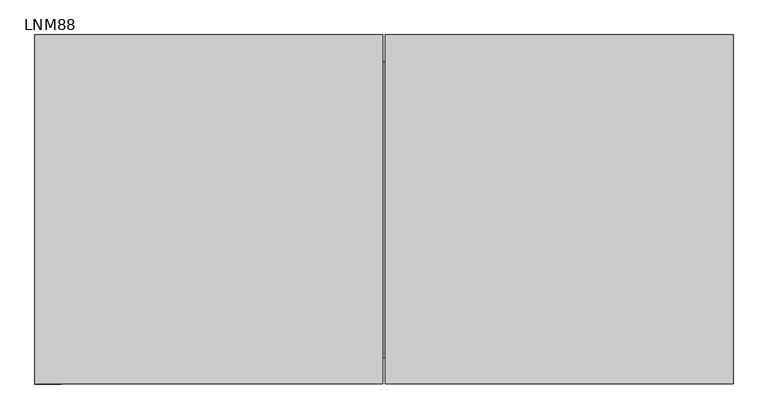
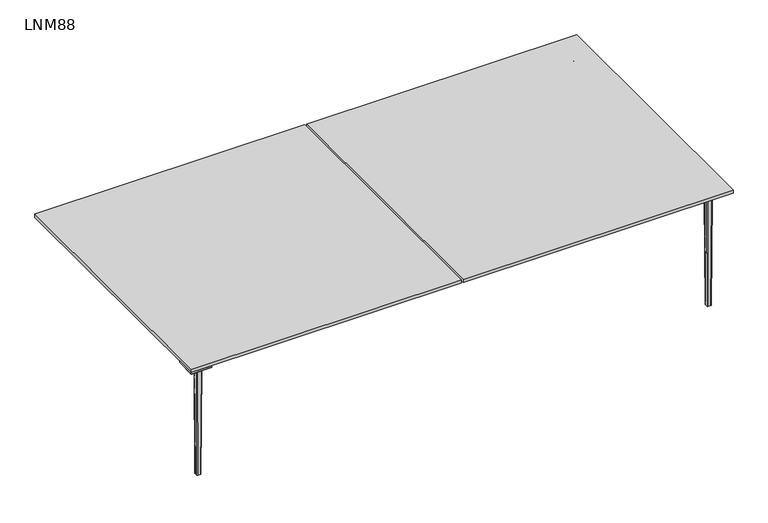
"""IFC4 building model written with IfcOpenShell, lengths in millimetres: furniture geometry, Operative Twin Desks : LNM88."""

from ifc_helpers import new_model, si_unit, point, frame, origin, place, context, project, spatial, polyline, circle_curve, ellipse_curve, trimmed, outline, extrude, faceted_brep, source, transform, mapped, element, save
from ifc_brep_helpers import plane_surface, cylinder_surface, revolved_surface, extruded_surface, advanced_brep


def lnm88_339ca961(model_context):
    return source(origin(), model_context, "Body", "SolidModel", [
        advanced_brep(
        [(1519.0, -722.0, 665.0), (1522.0, -719.0, 665.0), (1522.0, -695.0, 665.0), (1519.0, -692.0, 665.0), (1495.0, -692.0, 665.0), (1492.0, -695.0, 665.0), (1492.0, -719.0, 665.0), (1495.0, -722.0, 665.0), (1516.0, -719.0, 0.0), (1498.0, -719.0, 0.0), (1495.0, -716.0, 0.0), (1495.0, -698.0, 0.0), (1498.0, -695.0, 0.0), (1516.0, -695.0, 0.0), (1519.0, -698.0, 0.0), (1519.0, -716.0, 0.0)],
        [
            (0, 1, circle_curve(frame((1519.0, -719.0, 665.0), z_axis=(0.0, 0.0, 1.0), x_axis=(0.0, 1.0, 0.0)), 3.0)),
            (1, 2),
            (2, 3, circle_curve(frame((1519.0, -695.0, 665.0), z_axis=(0.0, 0.0, 1.0), x_axis=(0.0, 1.0, 0.0)), 3.0)),
            (3, 4),
            (4, 5, circle_curve(frame((1495.0, -695.0, 665.0), z_axis=(0.0, 0.0, 1.0), x_axis=(0.0, 1.0, 0.0)), 3.0)),
            (5, 6),
            (6, 7, circle_curve(frame((1495.0, -719.0, 665.0), z_axis=(0.0, 0.0, 1.0), x_axis=(0.0, 1.0, 0.0)), 3.0)),
            (7, 0),
            (8, 9),
            (9, 10, circle_curve(frame((1498.0, -716.0, 0.0), z_axis=(0.0, 0.0, -1.0), x_axis=(0.0, 1.0, 0.0)), 3.0)),
            (10, 11),
            (11, 12, circle_curve(frame((1498.0, -698.0, 0.0), z_axis=(0.0, 0.0, -1.0), x_axis=(0.0, 1.0, 0.0)), 3.0)),
            (12, 13),
            (13, 14, circle_curve(frame((1516.0, -698.0, 0.0), z_axis=(0.0, 0.0, -1.0), x_axis=(0.0, 1.0, 0.0)), 3.0)),
            (14, 15),
            (15, 8, circle_curve(frame((1516.0, -716.0, 0.0), z_axis=(0.0, 0.0, -1.0), x_axis=(0.0, 1.0, 0.0)), 3.0)),
            (15, 1),
            (0, 8),
            (14, 2),
            (13, 3),
            (12, 4),
            (11, 5),
            (10, 6),
            (9, 7),
        ],
        [
            plane_surface(frame((1507.0, -707.0, 665.0), z_axis=(0.0, 0.0, 1.0), x_axis=(0.0, -1.0, 0.0))),
            plane_surface(frame((1507.0, -707.0, 0.0), z_axis=(0.0, 0.0, -1.0), x_axis=(0.0, -1.0, 0.0))),
            extruded_surface(trimmed(circle_curve(frame((1516.0, -716.0, 0.0), z_axis=(0.0, 0.0, 1.0), x_axis=(0.0, 1.0, 0.0)), 3.0), [point((1516.0, -719.0, 0.0))], [point((1519.0, -716.0, 0.0))], True, "CARTESIAN"), (3.0, -3.0, 665.0), 665.0135336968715),
            plane_surface(frame((1519.0, -707.0, 0.0), z_axis=(0.9999898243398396, 0.0, -0.004511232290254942), x_axis=(0.0, 1.0, 0.0))),
            extruded_surface(trimmed(circle_curve(frame((1516.0, -698.0, 0.0), z_axis=(0.0, 0.0, 1.0), x_axis=(0.0, 1.0, 0.0)), 3.0), [point((1519.0, -698.0, 0.0))], [point((1516.0, -695.0, 0.0))], True, "CARTESIAN"), (3.0, 3.0, 665.0), 665.0135336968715),
            plane_surface(frame((1507.0, -695.0, 0.0), z_axis=(0.0, 0.9999898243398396, -0.004511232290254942), x_axis=(-1.0, 0.0, 0.0))),
            extruded_surface(trimmed(circle_curve(frame((1498.0, -698.0, 0.0), z_axis=(0.0, 0.0, 1.0), x_axis=(0.0, 1.0, 0.0)), 3.0), [point((1498.0, -695.0, 0.0))], [point((1495.0, -698.0, 0.0))], True, "CARTESIAN"), (-3.0, 3.0, 665.0), 665.0135336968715),
            plane_surface(frame((1495.0, -707.0, 0.0), z_axis=(-0.9999898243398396, 0.0, -0.004511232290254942), x_axis=(0.0, -1.0, 0.0))),
            extruded_surface(trimmed(circle_curve(frame((1498.0, -716.0, 0.0), z_axis=(0.0, 0.0, 1.0), x_axis=(0.0, 1.0, 0.0)), 3.0), [point((1495.0, -716.0, 0.0))], [point((1498.0, -719.0, 0.0))], True, "CARTESIAN"), (-3.0, -3.0, 665.0), 665.0135336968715),
            plane_surface(frame((1507.0, -719.0, 0.0), z_axis=(0.0, -0.9999898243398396, -0.004511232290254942), x_axis=(1.0, 0.0, 0.0))),
        ],
        [
            (0, [[1, 2, 3, 4, 5, 6, 7, 8]]),
            (1, [[9, 10, 11, 12, 13, 14, 15, 16]]),
            (2, [[-16, 17, -1, 18]]),
            (3, [[-15, 19, -2, -17]]),
            (4, [[-14, 20, -3, -19]]),
            (5, [[-13, 21, -4, -20]]),
            (6, [[-12, 22, -5, -21]]),
            (7, [[-11, 23, -6, -22]]),
            (8, [[-10, 24, -7, -23]]),
            (9, [[-9, -18, -8, -24]]),
        ],
    ),
        faceted_brep([(1480.0, 680.0, 710.0), (1600.0, 680.0, 710.0), (1600.0, 800.0, 710.0), (1480.0, 800.0, 710.0), (1480.0, 680.0, 675.0), (1480.0, 727.0, 675.0), (1527.0, 727.0, 675.0), (1527.0, 680.0, 675.0)], [[[0, 1, 2, 3]], [[4, 5, 6, 7]], [[1, 0, 4, 7]], [[0, 3, 5, 4]], [[6, 2, 1, 7]], [[2, 6, 5, 3]]]),
        advanced_brep(
        [(1495.0, 687.0, 675.0), (1519.0, 687.0, 675.0), (1527.0, 695.0, 675.0), (1527.0, 719.0, 675.0), (1519.0, 727.0, 675.0), (1495.0, 727.0, 675.0), (1487.0, 719.0, 675.0), (1487.0, 695.0, 675.0), (1492.0, 719.0, 665.0), (1495.0, 722.0, 665.0), (1519.0, 722.0, 665.0), (1522.0, 719.0, 665.0), (1522.0, 695.0, 665.0), (1519.0, 692.0, 665.0), (1495.0, 692.0, 665.0), (1492.0, 695.0, 665.0), (1495.0, 687.0, 672.0), (1519.0, 687.0, 672.0), (1527.0, 695.0, 672.0), (1527.0, 719.0, 672.0), (1519.0, 727.0, 672.0), (1495.0, 727.0, 672.0), (1487.0, 719.0, 672.0), (1487.0, 695.0, 672.0)],
        [
            (0, 1),
            (1, 2, circle_curve(frame((1519.0, 695.0, 675.0), z_axis=(0.0, 0.0, 1.0), x_axis=(-1.0000000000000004, 0.0, 0.0)), 8.0)),
            (2, 3),
            (3, 4, circle_curve(frame((1519.0, 719.0, 675.0), z_axis=(0.0, 0.0, 1.0), x_axis=(-1.0000000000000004, 0.0, 0.0)), 8.0)),
            (4, 5),
            (5, 6, circle_curve(frame((1495.0, 719.0, 675.0), z_axis=(0.0, 0.0, 1.0), x_axis=(-1.0000000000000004, 0.0, 0.0)), 8.0)),
            (6, 7),
            (7, 0, circle_curve(frame((1495.0, 695.0, 675.0), z_axis=(0.0, 0.0, 1.0), x_axis=(-1.0000000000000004, 0.0, 0.0)), 8.0)),
            (8, 9, circle_curve(frame((1495.0, 719.0, 665.0), z_axis=(0.0, 0.0, -1.0), x_axis=(-1.0000000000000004, 0.0, 0.0)), 3.0)),
            (9, 10),
            (10, 11, circle_curve(frame((1519.0, 719.0, 665.0), z_axis=(0.0, 0.0, -1.0), x_axis=(0.0, 1.0000000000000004, 0.0)), 3.0)),
            (11, 12),
            (12, 13, circle_curve(frame((1519.0, 695.0, 665.0), z_axis=(0.0, 0.0, -1.0), x_axis=(1.0000000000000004, 0.0, 0.0)), 3.0)),
            (13, 14),
            (14, 15, circle_curve(frame((1495.0, 695.0, 665.0), z_axis=(0.0, 0.0, -1.0), x_axis=(0.0, -1.0000000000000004, 0.0)), 3.0)),
            (15, 8),
            (0, 16),
            (16, 17),
            (17, 1),
            (17, 18, circle_curve(frame((1519.0, 695.0, 672.0), z_axis=(0.0, 0.0, 1.0), x_axis=(-1.0000000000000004, 0.0, 0.0)), 8.0)),
            (18, 2),
            (18, 19),
            (19, 3),
            (19, 20, circle_curve(frame((1519.0, 719.0, 672.0), z_axis=(0.0, 0.0, 1.0), x_axis=(-1.0000000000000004, 0.0, 0.0)), 8.0)),
            (20, 4),
            (20, 21),
            (21, 5),
            (21, 22, circle_curve(frame((1495.0, 719.0, 672.0), z_axis=(0.0, 0.0, 1.0), x_axis=(-1.0000000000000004, 0.0, 0.0)), 8.0)),
            (22, 6),
            (22, 23),
            (23, 7),
            (23, 16, circle_curve(frame((1495.0, 695.0, 672.0), z_axis=(0.0, 0.0, 1.0), x_axis=(-1.0000000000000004, 0.0, 0.0)), 8.0)),
            (21, 9, circle_curve(frame((1495.0, 730.9600528, 663.8856766), z_axis=(1.0000000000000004, 0.0, 0.0), x_axis=(0.0, 1.0000000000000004, 0.0)), 9.0290787)),
            (8, 22, circle_curve(frame((1483.0399472, 719.0, 663.8856766), z_axis=(0.0, -1.0000000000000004, 0.0), x_axis=(-1.0000000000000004, 0.0, 0.0)), 9.0290787)),
            (20, 10, circle_curve(frame((1519.0, 730.9600528, 663.8856766), z_axis=(1.0, 0.0, 0.0), x_axis=(0.0, 1.0000000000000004, 0.0)), 9.0290787)),
            (19, 11, circle_curve(frame((1530.9600528, 719.0, 663.8856766), z_axis=(0.0, -1.0000000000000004, 0.0), x_axis=(1.0000000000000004, 0.0, 0.0)), 9.0290787)),
            (18, 12, circle_curve(frame((1530.9600528, 695.0, 663.8856766), z_axis=(0.0, -1.0, 0.0), x_axis=(1.0000000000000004, 0.0, 0.0)), 9.0290787)),
            (17, 13, circle_curve(frame((1519.0, 683.0399472, 663.8856766), z_axis=(-1.0000000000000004, 0.0, 0.0), x_axis=(0.0, -1.0000000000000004, 0.0)), 9.0290787)),
            (16, 14, circle_curve(frame((1495.0, 683.0399472, 663.8856766), z_axis=(-1.0, 0.0, 0.0), x_axis=(0.0, -1.0000000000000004, 0.0)), 9.0290787)),
            (23, 15, circle_curve(frame((1483.0399472, 695.0, 663.8856766), z_axis=(0.0, 1.0000000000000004, 0.0), x_axis=(-1.0000000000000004, 0.0, 0.0)), 9.0290787)),
        ],
        [
            plane_surface(frame((2180.663284, 687.0, 675.0), z_axis=(0.0, 0.0, 1.0), x_axis=(1.0, 0.0, 0.0))),
            plane_surface(frame((2180.663284, 687.0, 665.0), z_axis=(0.0, 0.0, -1.0), x_axis=(-1.0, 0.0, 0.0))),
            plane_surface(frame((1495.0, 687.0, 675.0), z_axis=(0.0, -1.0, 0.0), x_axis=(0.0, 0.0, -1.0))),
            cylinder_surface(frame((1519.0, 695.0, 665.0), z_axis=(0.0, 0.0, 1.0), x_axis=(-1.0000000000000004, 0.0, 0.0)), 8.0),
            plane_surface(frame((1527.0, 695.0, 675.0), z_axis=(1.0, 0.0, 0.0), x_axis=(0.0, 0.0, -1.0))),
            cylinder_surface(frame((1519.0, 719.0, 665.0), z_axis=(0.0, 0.0, 1.0), x_axis=(-1.0000000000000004, 0.0, 0.0)), 8.0),
            plane_surface(frame((1519.0, 727.0, 675.0), z_axis=(0.0, 1.0, 0.0), x_axis=(0.0, 0.0, -1.0))),
            cylinder_surface(frame((1495.0, 719.0, 665.0), z_axis=(0.0, 0.0, 1.0), x_axis=(-1.0000000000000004, 0.0, 0.0)), 8.0),
            plane_surface(frame((1487.0, 719.0, 675.0), z_axis=(-1.0, 0.0, 0.0), x_axis=(0.0, 0.0, -1.0))),
            cylinder_surface(frame((1495.0, 695.0, 665.0), z_axis=(0.0, 0.0, 1.0), x_axis=(-1.0000000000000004, 0.0, 0.0)), 8.0),
            revolved_surface(trimmed(ellipse_curve(frame((1483.0399472, 719.0, 663.8856766), z_axis=(0.0, 1.0000000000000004, 0.0), x_axis=(-1.0000000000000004, 0.0, 0.0)), 9.0290787, 9.0290787), [point((1487.0, 719.0, 672.0))], [point((1492.0, 719.0, 665.0))], True, "CARTESIAN"), (1495.0, 719.0, 0.0), (0.0, 0.0, -1.0)),
            revolved_surface(polyline([(1495.0, 739.9891315, 663.8856766), (1519.0, 739.9891315, 663.8856766)]), (1495.0, 730.9600528, 663.8856766), (-1.0000000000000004, 0.0, 0.0)),
            revolved_surface(trimmed(ellipse_curve(frame((1519.0, 730.9600528, 663.8856766), z_axis=(1.0000000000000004, 0.0, 0.0), x_axis=(0.0, 1.0000000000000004, 0.0)), 9.0290787, 9.0290787), [point((1519.0, 727.0, 672.0))], [point((1519.0, 722.0, 665.0))], True, "CARTESIAN"), (1519.0, 719.0, 0.0), (0.0, 0.0, -1.0)),
            revolved_surface(polyline([(1539.9891315, 719.0, 663.8856766), (1539.9891315, 695.0, 663.8856766)]), (1530.9600528, 719.0, 663.8856766), (0.0, 1.0000000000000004, 0.0)),
            revolved_surface(trimmed(ellipse_curve(frame((1530.9600528, 695.0, 663.8856766), z_axis=(0.0, -1.0000000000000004, 0.0), x_axis=(1.0000000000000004, 0.0, 0.0)), 9.0290787, 9.0290787), [point((1527.0, 695.0, 672.0))], [point((1522.0, 695.0, 665.0))], True, "CARTESIAN"), (1519.0, 695.0, 0.0), (0.0, 0.0, -1.0)),
            revolved_surface(polyline([(1519.0, 674.0108685, 663.8856766), (1495.0, 674.0108685, 663.8856766)]), (1519.0, 683.0399472, 663.8856766), (1.0000000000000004, 0.0, 0.0)),
            revolved_surface(trimmed(ellipse_curve(frame((1495.0, 683.0399472, 663.8856766), z_axis=(-1.0000000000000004, 0.0, 0.0), x_axis=(0.0, -1.0000000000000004, 0.0)), 9.0290787, 9.0290787), [point((1495.0, 687.0, 672.0))], [point((1495.0, 692.0, 665.0))], True, "CARTESIAN"), (1495.0, 695.0, 0.0), (0.0, 0.0, -1.0)),
            revolved_surface(polyline([(1474.0108685, 695.0, 663.8856766), (1474.0108685, 719.0, 663.8856766)]), (1483.0399472, 695.0, 663.8856766), (0.0, -1.0000000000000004, 0.0)),
        ],
        [
            (0, [[1, 2, 3, 4, 5, 6, 7, 8]]),
            (1, [[9, 10, 11, 12, 13, 14, 15, 16]]),
            (2, [[-1, 17, 18, 19]]),
            (3, [[-2, -19, 20, 21]]),
            (4, [[-3, -21, 22, 23]]),
            (5, [[-4, -23, 24, 25]]),
            (6, [[-5, -25, 26, 27]]),
            (7, [[-6, -27, 28, 29]]),
            (8, [[-7, -29, 30, 31]]),
            (9, [[-8, -31, 32, -17]]),
            (10, [[33, -9, 34, -28]]),
            (11, [[-33, -26, 35, -10]]),
            (12, [[-35, -24, 36, -11]]),
            (13, [[-36, -22, 37, -12]]),
            (14, [[-37, -20, 38, -13]]),
            (15, [[-38, -18, 39, -14]]),
            (16, [[-39, -32, 40, -15]]),
            (17, [[-34, -16, -40, -30]]),
        ],
    ),
        advanced_brep(
        [(1522.0, 719.0, 665.0), (1519.0, 722.0, 665.0), (1495.0, 722.0, 665.0), (1492.0, 719.0, 665.0), (1492.0, 695.0, 665.0), (1495.0, 692.0, 665.0), (1519.0, 692.0, 665.0), (1522.0, 695.0, 665.0), (1519.0, 716.0, 0.0), (1519.0, 698.0, 0.0), (1516.0, 695.0, 0.0), (1498.0, 695.0, 0.0), (1495.0, 698.0, 0.0), (1495.0, 716.0, 0.0), (1498.0, 719.0, 0.0), (1516.0, 719.0, 0.0)],
        [
            (0, 1, circle_curve(frame((1519.0, 719.0, 665.0), z_axis=(0.0, 0.0, 1.0), x_axis=(-1.0, 0.0, 0.0)), 3.0)),
            (1, 2),
            (2, 3, circle_curve(frame((1495.0, 719.0, 665.0), z_axis=(0.0, 0.0, 1.0), x_axis=(-1.0, 0.0, 0.0)), 3.0)),
            (3, 4),
            (4, 5, circle_curve(frame((1495.0, 695.0, 665.0), z_axis=(0.0, 0.0, 1.0), x_axis=(-1.0, 0.0, 0.0)), 3.0)),
            (5, 6),
            (6, 7, circle_curve(frame((1519.0, 695.0, 665.0), z_axis=(0.0, 0.0, 1.0), x_axis=(-1.0, 0.0, 0.0)), 3.0)),
            (7, 0),
            (8, 9),
            (9, 10, circle_curve(frame((1516.0, 698.0, 0.0), z_axis=(0.0, 0.0, -1.0), x_axis=(-1.0, 0.0, 0.0)), 3.0)),
            (10, 11),
            (11, 12, circle_curve(frame((1498.0, 698.0, 0.0), z_axis=(0.0, 0.0, -1.0), x_axis=(-1.0, 0.0, 0.0)), 3.0)),
            (12, 13),
            (13, 14, circle_curve(frame((1498.0, 716.0, 0.0), z_axis=(0.0, 0.0, -1.0), x_axis=(-1.0, 0.0, 0.0)), 3.0)),
            (14, 15),
            (15, 8, circle_curve(frame((1516.0, 716.0, 0.0), z_axis=(0.0, 0.0, -1.0), x_axis=(-1.0, 0.0, 0.0)), 3.0)),
            (15, 1),
            (0, 8),
            (14, 2),
            (13, 3),
            (12, 4),
            (11, 5),
            (10, 6),
            (9, 7),
        ],
        [
            plane_surface(frame((1507.0, 707.0, 665.0), z_axis=(0.0, 0.0, 1.0), x_axis=(1.0, 0.0, 0.0))),
            plane_surface(frame((1507.0, 707.0, 0.0), z_axis=(0.0, 0.0, -1.0), x_axis=(1.0, 0.0, 0.0))),
            extruded_surface(trimmed(circle_curve(frame((1516.0, 716.0, 0.0), z_axis=(0.0, 0.0, 1.0), x_axis=(-1.0, 0.0, 0.0)), 3.0), [point((1519.0, 716.0, 0.0))], [point((1516.0, 719.0, 0.0))], True, "CARTESIAN"), (3.0, 3.0, 665.0), 665.0135336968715),
            plane_surface(frame((1507.0, 719.0, 0.0), z_axis=(0.0, 0.9999898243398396, -0.004511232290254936), x_axis=(-1.0, 0.0, 0.0))),
            extruded_surface(trimmed(circle_curve(frame((1498.0, 716.0, 0.0), z_axis=(0.0, 0.0, 1.0), x_axis=(-1.0, 0.0, 0.0)), 3.0), [point((1498.0, 719.0, 0.0))], [point((1495.0, 716.0, 0.0))], True, "CARTESIAN"), (-3.0, 3.0, 665.0), 665.0135336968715),
            plane_surface(frame((1495.0, 707.0, 0.0), z_axis=(-0.9999898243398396, 0.0, -0.004511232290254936), x_axis=(0.0, -1.0, 0.0))),
            extruded_surface(trimmed(circle_curve(frame((1498.0, 698.0, 0.0), z_axis=(0.0, 0.0, 1.0), x_axis=(-1.0, 0.0, 0.0)), 3.0), [point((1495.0, 698.0, 0.0))], [point((1498.0, 695.0, 0.0))], True, "CARTESIAN"), (-3.0, -3.0, 665.0), 665.0135336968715),
            plane_surface(frame((1507.0, 695.0, 0.0), z_axis=(0.0, -0.9999898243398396, -0.004511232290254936), x_axis=(1.0, 0.0, 0.0))),
            extruded_surface(trimmed(circle_curve(frame((1516.0, 698.0, 0.0), z_axis=(0.0, 0.0, 1.0), x_axis=(-1.0, 0.0, 0.0)), 3.0), [point((1516.0, 695.0, 0.0))], [point((1519.0, 698.0, 0.0))], True, "CARTESIAN"), (3.0, -3.0, 665.0), 665.0135336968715),
            plane_surface(frame((1519.0, 707.0, 0.0), z_axis=(0.9999898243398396, 0.0, -0.004511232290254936), x_axis=(0.0, 1.0, 0.0))),
        ],
        [
            (0, [[1, 2, 3, 4, 5, 6, 7, 8]]),
            (1, [[9, 10, 11, 12, 13, 14, 15, 16]]),
            (2, [[-16, 17, -1, 18]]),
            (3, [[-15, 19, -2, -17]]),
            (4, [[-14, 20, -3, -19]]),
            (5, [[-13, 21, -4, -20]]),
            (6, [[-12, 22, -5, -21]]),
            (7, [[-11, 23, -6, -22]]),
            (8, [[-10, 24, -7, -23]]),
            (9, [[-9, -18, -8, -24]]),
        ],
    ),
        faceted_brep([(-1480.0, -680.0, 710.0), (-1600.0, -680.0, 710.0), (-1600.0, -800.0, 710.0), (-1480.0, -800.0, 710.0), (-1480.0, -680.0, 675.0), (-1480.0, -727.0, 675.0), (-1527.0, -727.0, 675.0), (-1527.0, -680.0, 675.0)], [[[0, 1, 2, 3]], [[4, 5, 6, 7]], [[1, 0, 4, 7]], [[0, 3, 5, 4]], [[6, 2, 1, 7]], [[2, 6, 5, 3]]]),
        advanced_brep(
        [(-1495.0, -687.0, 675.0), (-1519.0, -687.0, 675.0), (-1527.0, -695.0, 675.0), (-1527.0, -719.0, 675.0), (-1519.0, -727.0, 675.0), (-1495.0, -727.0, 675.0), (-1487.0, -719.0, 675.0), (-1487.0, -695.0, 675.0), (-1492.0, -719.0, 665.0), (-1495.0, -722.0, 665.0), (-1519.0, -722.0, 665.0), (-1522.0, -719.0, 665.0), (-1522.0, -695.0, 665.0), (-1519.0, -692.0, 665.0), (-1495.0, -692.0, 665.0), (-1492.0, -695.0, 665.0), (-1495.0, -687.0, 672.0), (-1519.0, -687.0, 672.0), (-1527.0, -695.0, 672.0), (-1527.0, -719.0, 672.0), (-1519.0, -727.0, 672.0), (-1495.0, -727.0, 672.0), (-1487.0, -719.0, 672.0), (-1487.0, -695.0, 672.0)],
        [
            (0, 1),
            (1, 2, circle_curve(frame((-1519.0, -695.0, 675.0), z_axis=(0.0, 0.0, 1.0), x_axis=(1.0, 0.0, 0.0)), 8.0)),
            (2, 3),
            (3, 4, circle_curve(frame((-1519.0, -719.0, 675.0), z_axis=(0.0, 0.0, 1.0), x_axis=(1.0, 0.0, 0.0)), 8.0)),
            (4, 5),
            (5, 6, circle_curve(frame((-1495.0, -719.0, 675.0), z_axis=(0.0, 0.0, 1.0), x_axis=(1.0, 0.0, 0.0)), 8.0)),
            (6, 7),
            (7, 0, circle_curve(frame((-1495.0, -695.0, 675.0), z_axis=(0.0, 0.0, 1.0), x_axis=(1.0, 0.0, 0.0)), 8.0)),
            (8, 9, circle_curve(frame((-1495.0, -719.0, 665.0), z_axis=(0.0, 0.0, -1.0), x_axis=(1.0, 0.0, 0.0)), 3.0)),
            (9, 10),
            (10, 11, circle_curve(frame((-1519.0, -719.0, 665.0), z_axis=(0.0, 0.0, -1.0), x_axis=(0.0, -1.0, 0.0)), 3.0)),
            (11, 12),
            (12, 13, circle_curve(frame((-1519.0, -695.0, 665.0), z_axis=(0.0, 0.0, -1.0), x_axis=(-1.0, 0.0, 0.0)), 3.0)),
            (13, 14),
            (14, 15, circle_curve(frame((-1495.0, -695.0, 665.0), z_axis=(0.0, 0.0, -1.0), x_axis=(0.0, 1.0, 0.0)), 3.0)),
            (15, 8),
            (0, 16),
            (16, 17),
            (17, 1),
            (17, 18, circle_curve(frame((-1519.0, -695.0, 672.0), z_axis=(0.0, 0.0, 1.0), x_axis=(1.0, 0.0, 0.0)), 8.0)),
            (18, 2),
            (18, 19),
            (19, 3),
            (19, 20, circle_curve(frame((-1519.0, -719.0, 672.0), z_axis=(0.0, 0.0, 1.0), x_axis=(1.0, 0.0, 0.0)), 8.0)),
            (20, 4),
            (20, 21),
            (21, 5),
            (21, 22, circle_curve(frame((-1495.0, -719.0, 672.0), z_axis=(0.0, 0.0, 1.0), x_axis=(1.0, 0.0, 0.0)), 8.0)),
            (22, 6),
            (22, 23),
            (23, 7),
            (23, 16, circle_curve(frame((-1495.0, -695.0, 672.0), z_axis=(0.0, 0.0, 1.0), x_axis=(1.0, 0.0, 0.0)), 8.0)),
            (21, 9, circle_curve(frame((-1495.0, -730.9600528, 663.8856766), z_axis=(-1.0, 0.0, 0.0), x_axis=(0.0, -1.0, 0.0)), 9.0290787)),
            (8, 22, circle_curve(frame((-1483.0399472, -719.0, 663.8856766), z_axis=(0.0, 1.0, 0.0), x_axis=(1.0, 0.0, 0.0)), 9.0290787)),
            (20, 10, circle_curve(frame((-1519.0, -730.9600528, 663.8856766), z_axis=(-1.0, 0.0, 0.0), x_axis=(0.0, -1.0, 0.0)), 9.0290787)),
            (19, 11, circle_curve(frame((-1530.9600528, -719.0, 663.8856766), z_axis=(0.0, 1.0, 0.0), x_axis=(-1.0, 0.0, 0.0)), 9.0290787)),
            (18, 12, circle_curve(frame((-1530.9600528, -695.0, 663.8856766), z_axis=(0.0, 1.0, 0.0), x_axis=(-1.0, 0.0, 0.0)), 9.0290787)),
            (17, 13, circle_curve(frame((-1519.0, -683.0399472, 663.8856766), z_axis=(1.0, 0.0, 0.0), x_axis=(0.0, 1.0, 0.0)), 9.0290787)),
            (16, 14, circle_curve(frame((-1495.0, -683.0399472, 663.8856766), z_axis=(1.0, 0.0, 0.0), x_axis=(0.0, 1.0, 0.0)), 9.0290787)),
            (23, 15, circle_curve(frame((-1483.0399472, -695.0, 663.8856766), z_axis=(0.0, -1.0, 0.0), x_axis=(1.0, 0.0, 0.0)), 9.0290787)),
        ],
        [
            plane_surface(frame((-2180.663284, -687.0, 675.0), z_axis=(0.0, 0.0, 1.0), x_axis=(-1.0, 0.0, 0.0))),
            plane_surface(frame((-2180.663284, -687.0, 665.0), z_axis=(0.0, 0.0, -1.0), x_axis=(1.0, 0.0, 0.0))),
            plane_surface(frame((-1495.0, -687.0, 675.0), z_axis=(0.0, 1.0, 0.0), x_axis=(0.0, 0.0, -1.0))),
            cylinder_surface(frame((-1519.0, -695.0, 665.0), z_axis=(0.0, 0.0, 1.0), x_axis=(1.0, 0.0, 0.0)), 8.0),
            plane_surface(frame((-1527.0, -695.0, 675.0), z_axis=(-1.0, 0.0, 0.0), x_axis=(0.0, 0.0, -1.0))),
            cylinder_surface(frame((-1519.0, -719.0, 665.0), z_axis=(0.0, 0.0, 1.0), x_axis=(1.0, 0.0, 0.0)), 8.0),
            plane_surface(frame((-1519.0, -727.0, 675.0), z_axis=(0.0, -1.0, 0.0), x_axis=(0.0, 0.0, -1.0))),
            cylinder_surface(frame((-1495.0, -719.0, 665.0), z_axis=(0.0, 0.0, 1.0), x_axis=(1.0, 0.0, 0.0)), 8.0),
            plane_surface(frame((-1487.0, -719.0, 675.0), z_axis=(1.0, 0.0, 0.0), x_axis=(0.0, 0.0, -1.0))),
            cylinder_surface(frame((-1495.0, -695.0, 665.0), z_axis=(0.0, 0.0, 1.0), x_axis=(1.0, 0.0, 0.0)), 8.0),
            revolved_surface(trimmed(ellipse_curve(frame((-1483.0399472, -719.0, 663.8856766), z_axis=(0.0, -1.0, 0.0), x_axis=(1.0, 0.0, 0.0)), 9.0290787, 9.0290787), [point((-1487.0, -719.0, 672.0))], [point((-1492.0, -719.0, 665.0))], True, "CARTESIAN"), (-1495.0, -719.0, 0.0), (0.0, 0.0, -1.0)),
            revolved_surface(polyline([(-1495.0, -739.9891315, 663.8856766), (-1519.0, -739.9891315, 663.8856766)]), (-1495.0, -730.9600528, 663.8856766), (1.0, 0.0, 0.0)),
            revolved_surface(trimmed(ellipse_curve(frame((-1519.0, -730.9600528, 663.8856766), z_axis=(-1.0, 0.0, 0.0), x_axis=(0.0, -1.0, 0.0)), 9.0290787, 9.0290787), [point((-1519.0, -727.0, 672.0))], [point((-1519.0, -722.0, 665.0))], True, "CARTESIAN"), (-1519.0, -719.0, 0.0), (0.0, 0.0, -1.0)),
            revolved_surface(polyline([(-1539.9891315, -719.0, 663.8856766), (-1539.9891315, -695.0, 663.8856766)]), (-1530.9600528, -719.0, 663.8856766), (0.0, -1.0, 0.0)),
            revolved_surface(trimmed(ellipse_curve(frame((-1530.9600528, -695.0, 663.8856766), z_axis=(0.0, 1.0, 0.0), x_axis=(-1.0, 0.0, 0.0)), 9.0290787, 9.0290787), [point((-1527.0, -695.0, 672.0))], [point((-1522.0, -695.0, 665.0))], True, "CARTESIAN"), (-1519.0, -695.0, 0.0), (0.0, 0.0, -1.0)),
            revolved_surface(polyline([(-1519.0, -674.0108685, 663.8856766), (-1495.0, -674.0108685, 663.8856766)]), (-1519.0, -683.0399472, 663.8856766), (-1.0, 0.0, 0.0)),
            revolved_surface(trimmed(ellipse_curve(frame((-1495.0, -683.0399472, 663.8856766), z_axis=(1.0, 0.0, 0.0), x_axis=(0.0, 1.0, 0.0)), 9.0290787, 9.0290787), [point((-1495.0, -687.0, 672.0))], [point((-1495.0, -692.0, 665.0))], True, "CARTESIAN"), (-1495.0, -695.0, 0.0), (0.0, 0.0, -1.0)),
            revolved_surface(polyline([(-1474.0108685, -695.0, 663.8856766), (-1474.0108685, -719.0, 663.8856766)]), (-1483.0399472, -695.0, 663.8856766), (0.0, 1.0, 0.0)),
        ],
        [
            (0, [[1, 2, 3, 4, 5, 6, 7, 8]]),
            (1, [[9, 10, 11, 12, 13, 14, 15, 16]]),
            (2, [[-1, 17, 18, 19]]),
            (3, [[-2, -19, 20, 21]]),
            (4, [[-3, -21, 22, 23]]),
            (5, [[-4, -23, 24, 25]]),
            (6, [[-5, -25, 26, 27]]),
            (7, [[-6, -27, 28, 29]]),
            (8, [[-7, -29, 30, 31]]),
            (9, [[-8, -31, 32, -17]]),
            (10, [[33, -9, 34, -28]]),
            (11, [[-33, -26, 35, -10]]),
            (12, [[-35, -24, 36, -11]]),
            (13, [[-36, -22, 37, -12]]),
            (14, [[-37, -20, 38, -13]]),
            (15, [[-38, -18, 39, -14]]),
            (16, [[-39, -32, 40, -15]]),
            (17, [[-34, -16, -40, -30]]),
        ],
    ),
        advanced_brep(
        [(-1522.0, -719.0, 665.0), (-1519.0, -722.0, 665.0), (-1495.0, -722.0, 665.0), (-1492.0, -719.0, 665.0), (-1492.0, -695.0, 665.0), (-1495.0, -692.0, 665.0), (-1519.0, -692.0, 665.0), (-1522.0, -695.0, 665.0), (-1519.0, -716.0, 0.0), (-1519.0, -698.0, 0.0), (-1516.0, -695.0, 0.0), (-1498.0, -695.0, 0.0), (-1495.0, -698.0, 0.0), (-1495.0, -716.0, 0.0), (-1498.0, -719.0, 0.0), (-1516.0, -719.0, 0.0)],
        [
            (0, 1, circle_curve(frame((-1519.0, -719.0, 665.0), z_axis=(0.0, 0.0, 1.0), x_axis=(1.0, 0.0, 0.0)), 3.0)),
            (1, 2),
            (2, 3, circle_curve(frame((-1495.0, -719.0, 665.0), z_axis=(0.0, 0.0, 1.0), x_axis=(1.0, 0.0, 0.0)), 3.0)),
            (3, 4),
            (4, 5, circle_curve(frame((-1495.0, -695.0, 665.0), z_axis=(0.0, 0.0, 1.0), x_axis=(1.0, 0.0, 0.0)), 3.0)),
            (5, 6),
            (6, 7, circle_curve(frame((-1519.0, -695.0, 665.0), z_axis=(0.0, 0.0, 1.0), x_axis=(1.0, 0.0, 0.0)), 3.0)),
            (7, 0),
            (8, 9),
            (9, 10, circle_curve(frame((-1516.0, -698.0, 0.0), z_axis=(0.0, 0.0, -1.0), x_axis=(1.0, 0.0, 0.0)), 3.0)),
            (10, 11),
            (11, 12, circle_curve(frame((-1498.0, -698.0, 0.0), z_axis=(0.0, 0.0, -1.0), x_axis=(1.0, 0.0, 0.0)), 3.0)),
            (12, 13),
            (13, 14, circle_curve(frame((-1498.0, -716.0, 0.0), z_axis=(0.0, 0.0, -1.0), x_axis=(1.0, 0.0, 0.0)), 3.0)),
            (14, 15),
            (15, 8, circle_curve(frame((-1516.0, -716.0, 0.0), z_axis=(0.0, 0.0, -1.0), x_axis=(1.0, 0.0, 0.0)), 3.0)),
            (15, 1),
            (0, 8),
            (14, 2),
            (13, 3),
            (12, 4),
            (11, 5),
            (10, 6),
            (9, 7),
        ],
        [
            plane_surface(frame((-1507.0, -707.0, 665.0), z_axis=(0.0, 0.0, 1.0), x_axis=(-1.0, 0.0, 0.0))),
            plane_surface(frame((-1507.0, -707.0, 0.0), z_axis=(0.0, 0.0, -1.0), x_axis=(-1.0, 0.0, 0.0))),
            extruded_surface(trimmed(circle_curve(frame((-1516.0, -716.0, 0.0), z_axis=(0.0, 0.0, 1.0), x_axis=(1.0, 0.0, 0.0)), 3.0), [point((-1519.0, -716.0, 0.0))], [point((-1516.0, -719.0, 0.0))], True, "CARTESIAN"), (-3.0, -3.0, 665.0), 665.0135336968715),
            plane_surface(frame((-1507.0, -719.0, 0.0), z_axis=(0.0, -0.9999898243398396, -0.004511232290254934), x_axis=(1.0, 0.0, 0.0))),
            extruded_surface(trimmed(circle_curve(frame((-1498.0, -716.0, 0.0), z_axis=(0.0, 0.0, 1.0), x_axis=(1.0, 0.0, 0.0)), 3.0), [point((-1498.0, -719.0, 0.0))], [point((-1495.0, -716.0, 0.0))], True, "CARTESIAN"), (3.0, -3.0, 665.0), 665.0135336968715),
            plane_surface(frame((-1495.0, -707.0, 0.0), z_axis=(0.9999898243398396, 0.0, -0.004511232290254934), x_axis=(0.0, 1.0, 0.0))),
            extruded_surface(trimmed(circle_curve(frame((-1498.0, -698.0, 0.0), z_axis=(0.0, 0.0, 1.0), x_axis=(1.0, 0.0, 0.0)), 3.0), [point((-1495.0, -698.0, 0.0))], [point((-1498.0, -695.0, 0.0))], True, "CARTESIAN"), (3.0, 3.0, 665.0), 665.0135336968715),
            plane_surface(frame((-1507.0, -695.0, 0.0), z_axis=(0.0, 0.9999898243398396, -0.004511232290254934), x_axis=(-1.0, 0.0, 0.0))),
            extruded_surface(trimmed(circle_curve(frame((-1516.0, -698.0, 0.0), z_axis=(0.0, 0.0, 1.0), x_axis=(1.0, 0.0, 0.0)), 3.0), [point((-1516.0, -695.0, 0.0))], [point((-1519.0, -698.0, 0.0))], True, "CARTESIAN"), (-3.0, 3.0, 665.0), 665.0135336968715),
            plane_surface(frame((-1519.0, -707.0, 0.0), z_axis=(-0.9999898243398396, 0.0, -0.004511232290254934), x_axis=(0.0, -1.0, 0.0))),
        ],
        [
            (0, [[1, 2, 3, 4, 5, 6, 7, 8]]),
            (1, [[9, 10, 11, 12, 13, 14, 15, 16]]),
            (2, [[-16, 17, -1, 18]]),
            (3, [[-15, 19, -2, -17]]),
            (4, [[-14, 20, -3, -19]]),
            (5, [[-13, 21, -4, -20]]),
            (6, [[-12, 22, -5, -21]]),
            (7, [[-11, 23, -6, -22]]),
            (8, [[-10, 24, -7, -23]]),
            (9, [[-9, -18, -8, -24]]),
        ],
    ),
        extrude(outline(polyline([(-1480.0, -680.0), (-1480.0, -800.0), (-1600.0, -800.0), (-1600.0, -680.0), (-1480.0, -680.0)])), frame((0.0, 0.0, 710.0), z_axis=(0.0, 0.0, 1.0), x_axis=(1.0, 0.0, 0.0)), (0.0, 0.0, 1.0), 10.0),
        extrude(outline(polyline([(20.0, 677.0), (20.0, -680.0), (-20.0, -680.0), (-20.0, 677.0), (20.0, 677.0)])), frame((0.0, 0.0, 675.0), z_axis=(0.0, 0.0, 1.0), x_axis=(1.0, 0.0, 0.0)), (0.0, 0.0, 1.0), 35.0),
        extrude(outline(polyline([(-5.0, 800.0), (-5.0, -800.0), (-1600.0, -800.0), (-1600.0, 800.0), (-5.0, 800.0)])), frame((0.0, 0.0, 720.0), z_axis=(0.0, 0.0, 1.0), x_axis=(1.0, 0.0, 0.0)), (0.0, 0.0, 1.0), 20.0),
        extrude(outline(polyline([(5.0, 800.0), (1600.0, 800.0), (1600.0, -800.0), (5.0, -800.0), (5.0, 800.0)])), frame((0.0, 0.0, 720.0), z_axis=(0.0, 0.0, 1.0), x_axis=(1.0, 0.0, 0.0)), (0.0, 0.0, 1.0), 20.0),
    ])


if __name__ == "__main__":
    model = new_model("IFC4")
    model_context = context("Model", 3, world=origin())
    ifc_project = project(units=[si_unit("LENGTHUNIT", "METRE", prefix="MILLI")], contexts=[model_context])
    site = spatial("IfcSite", under=ifc_project)
    building = spatial("IfcBuilding", under=site)
    placement = place(None, origin())
    lnm88_shape = lnm88_339ca961(model_context)
    element("IfcFurniture", 1, ObjectType="Operative Twin Desks : LNM88", at=placement, inside=building, context=model_context, shape_type="MappedRepresentation", body=[
        mapped(lnm88_shape, transform((0.0, 0.0, 0.0), x_axis=(1.0, 0.0, 0.0), y_axis=(0.0, 1.0, 0.0), z_axis=(0.0, 0.0, 1.0))),
    ])
    save(model, "model.ifc")
